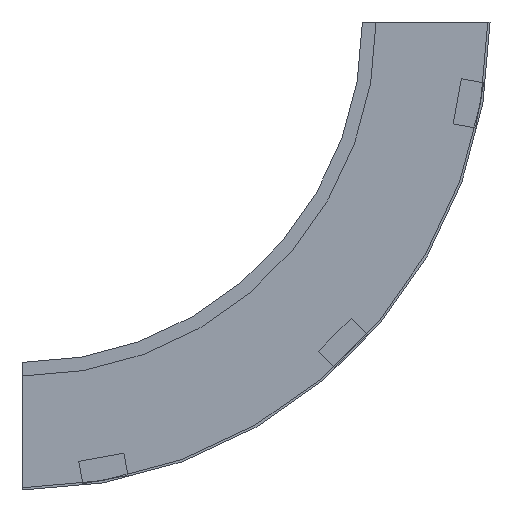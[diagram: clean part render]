
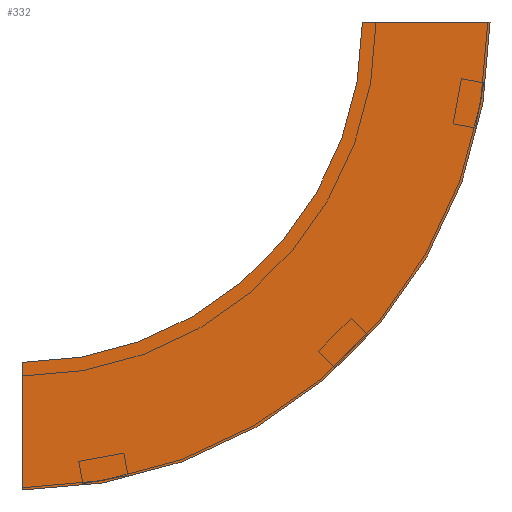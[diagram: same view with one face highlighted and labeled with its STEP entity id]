
A CAD part, left-side view. The second image highlights one B-rep face of the part: STEP entity #332.
In plain terms, the highlighted planar face has unit normal (-1, 0, 0) as drawn and (1, 0, 0) by its records, which use the part's own axes.
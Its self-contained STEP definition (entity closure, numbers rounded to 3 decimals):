
#34 = FACE_OUTER_BOUND ( 'NONE', #508, .T. ) ;
#37 = CARTESIAN_POINT ( 'NONE',  ( 0., 300., 0. ) ) ;
#59 = DIRECTION ( 'NONE',  ( -1., 0., 0. ) ) ;
#70 = CIRCLE ( 'NONE', #143, 300. ) ;
#74 = EDGE_CURVE ( 'NONE', #247, #176, #189, .T. ) ;
#77 = CARTESIAN_POINT ( 'NONE',  ( 0., 300., -412.5 ) ) ;
#87 = VERTEX_POINT ( 'NONE', #155 ) ;
#89 = CIRCLE ( 'NONE', #173, 412.5 ) ;
#109 = AXIS2_PLACEMENT_3D ( 'NONE', #228, #59, #499 ) ;
#143 = AXIS2_PLACEMENT_3D ( 'NONE', #37, #219, #169 ) ;
#147 = CARTESIAN_POINT ( 'NONE',  ( 0., 0., 0. ) ) ;
#155 = CARTESIAN_POINT ( 'NONE',  ( 0., 300., -300. ) ) ;
#166 = DIRECTION ( 'NONE',  ( 0., -1., 0. ) ) ;
#169 = DIRECTION ( 'NONE',  ( 0., -1., 0. ) ) ;
#173 = AXIS2_PLACEMENT_3D ( 'NONE', #380, #564, #166 ) ;
#176 = VERTEX_POINT ( 'NONE', #147 ) ;
#189 = LINE ( 'NONE', #355, #469 ) ;
#219 = DIRECTION ( 'NONE',  ( 1., 0., 0. ) ) ;
#228 = CARTESIAN_POINT ( 'NONE',  ( 0., -112.5, 0. ) ) ;
#242 = DIRECTION ( 'NONE',  ( 0., 0., 1. ) ) ;
#247 = VERTEX_POINT ( 'NONE', #486 ) ;
#268 = VECTOR ( 'NONE', #242, 1000. ) ;
#269 = PLANE ( 'NONE',  #109 ) ;
#273 = DIRECTION ( 'NONE',  ( 0., 1., 0. ) ) ;
#287 = EDGE_CURVE ( 'NONE', #176, #87, #70, .T. ) ;
#297 = CARTESIAN_POINT ( 'NONE',  ( 0., 300., -412.5 ) ) ;
#332 = ADVANCED_FACE ( 'NONE', ( #34 ), #269, .F. ) ;
#343 = ORIENTED_EDGE ( 'NONE', *, *, #514, .T. ) ;
#355 = CARTESIAN_POINT ( 'NONE',  ( 0., -112.5, 0. ) ) ;
#380 = CARTESIAN_POINT ( 'NONE',  ( 0., 300., 0. ) ) ;
#429 = LINE ( 'NONE', #77, #268 ) ;
#439 = ORIENTED_EDGE ( 'NONE', *, *, #74, .F. ) ;
#469 = VECTOR ( 'NONE', #273, 1000. ) ;
#470 = ORIENTED_EDGE ( 'NONE', *, *, #506, .T. ) ;
#486 = CARTESIAN_POINT ( 'NONE',  ( 0., -112.5, 0. ) ) ;
#499 = DIRECTION ( 'NONE',  ( 0., 0., 1. ) ) ;
#506 = EDGE_CURVE ( 'NONE', #526, #87, #429, .T. ) ;
#508 = EDGE_LOOP ( 'NONE', ( #537, #439, #343, #470 ) ) ;
#514 = EDGE_CURVE ( 'NONE', #247, #526, #89, .T. ) ;
#526 = VERTEX_POINT ( 'NONE', #297 ) ;
#537 = ORIENTED_EDGE ( 'NONE', *, *, #287, .F. ) ;
#564 = DIRECTION ( 'NONE',  ( 1., 0., 0. ) ) ;
